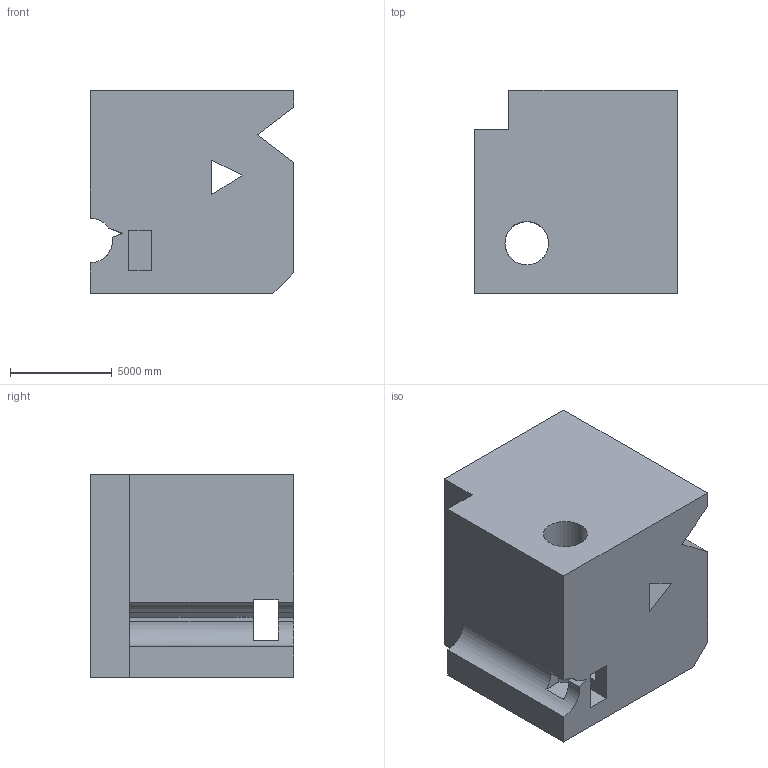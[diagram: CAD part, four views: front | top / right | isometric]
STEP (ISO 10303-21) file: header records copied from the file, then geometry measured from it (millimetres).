
FILE_DESCRIPTION (( 'STEP AP203' ), '1' );
FILE_NAME ('1917.STEP', '2022-08-25T16:46:10', ( 'user' ), ( '' ), 'SwSTEP 2.0', 'SolidWorks 2021', '' );
FILE_SCHEMA (( 'CONFIG_CONTROL_DESIGN' ));
Length unit declared in the file: centimetre
Products named in the file (1): 1917
Bounding box: 10000 x 10000 x 10000 mm (x, y, z)
Volume: 839013178790 mm3; surface area: 793078939.3 mm2
Topology: 1 solids, 1 shells, 47 faces, 147 edges, 98 vertices
Faces by surface type: plane 42, cylinder 5
Entity records: 1720 total; most frequent: CARTESIAN_POINT 305, ORIENTED_EDGE 294, DIRECTION 257, EDGE_CURVE 147, VECTOR 125, LINE 125, VERTEX_POINT 98, AXIS2_PLACEMENT_3D 66
